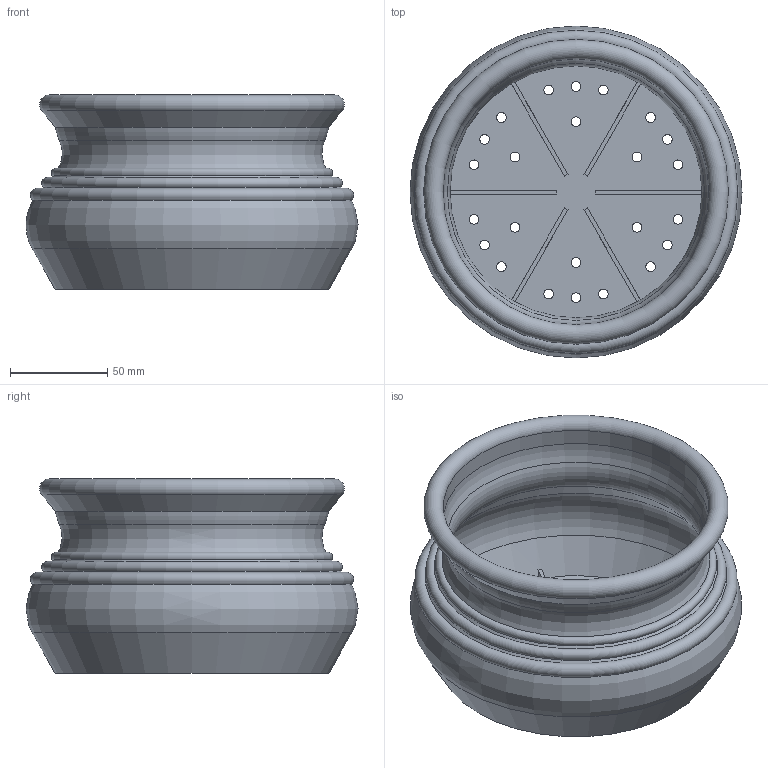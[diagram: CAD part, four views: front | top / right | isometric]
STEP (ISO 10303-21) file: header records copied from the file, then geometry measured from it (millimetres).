
FILE_DESCRIPTION(/* description */ (''),/* implementation_level */ '2;1');
FILE_NAME(/* name */ 'LR2406-S20-H100-D175_step.step',/* time_stamp */ '2024-02-01T11:23:30+01:00',/* author */ (''),/* organization */ (''),/* preprocessor_version */ 'ST-DEVELOPER v20',/* originating_system */ 'Autodesk Translation Framework v12.20.1.177',/* authorisation */ '');
FILE_SCHEMA (('AUTOMOTIVE_DESIGN { 1 0 10303 214 3 1 1 }'));
Length unit declared in the file: millimetre
Products named in the file (1): LR2406-S20-H100-D175
Bounding box: 171 x 171 x 100 mm (x, y, z)
Volume: 186528.5 mm3; surface area: 143914.7 mm2
Topology: 1 solids, 1 shells, 67 faces, 179 edges, 114 vertices
Faces by surface type: cylinder 31, plane 20, torus 10, cone 6
Full cylindrical faces by diameter (mm): 5 x24, 137 x1
Entity records: 2261 total; most frequent: DIRECTION 415, CARTESIAN_POINT 361, ORIENTED_EDGE 358, EDGE_CURVE 179, AXIS2_PLACEMENT_3D 168, EDGE_LOOP 115, VERTEX_POINT 114, CIRCLE 100
